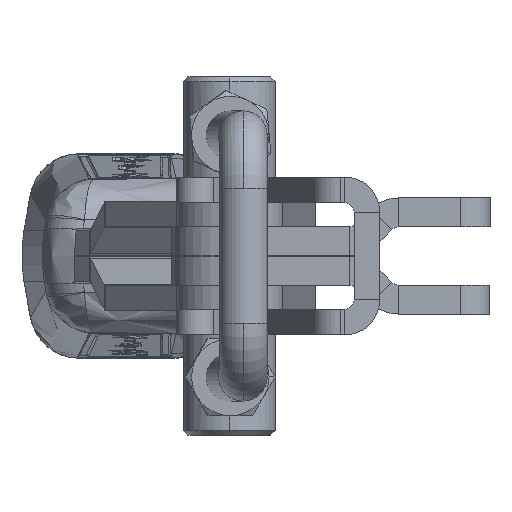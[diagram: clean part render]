
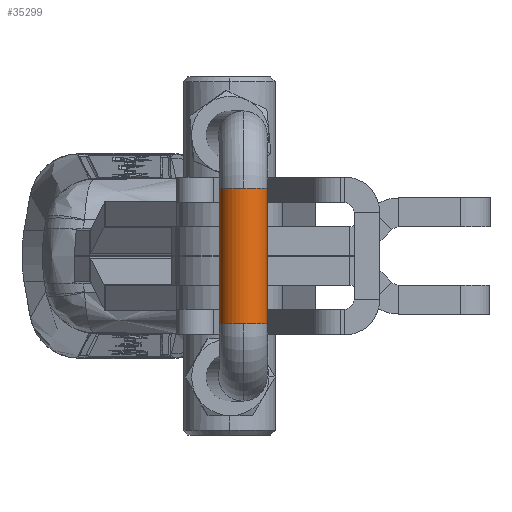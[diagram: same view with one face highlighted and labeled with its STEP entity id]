
A CAD part, left-side view. The second image highlights one B-rep face of the part: STEP entity #35299.
In plain terms, the highlighted cylindrical face has radius 2.5 mm (diameter 5 mm), a partial arc.
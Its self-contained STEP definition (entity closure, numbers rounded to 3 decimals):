
#219 = CIRCLE ( 'NONE', #461, 2.5 ) ;
#461 = AXIS2_PLACEMENT_3D ( 'NONE', #1358, #20433, #4091 ) ;
#890 = CARTESIAN_POINT ( 'NONE',  ( 7., 122.5, 2.5 ) ) ;
#1091 = CARTESIAN_POINT ( 'NONE',  ( -7., 122.5, 2.5 ) ) ;
#1122 = CYLINDRICAL_SURFACE ( 'NONE', #3167, 2.5 ) ;
#1258 = VERTEX_POINT ( 'NONE', #4480 ) ;
#1358 = CARTESIAN_POINT ( 'NONE',  ( -7., 122.5, 0. ) ) ;
#1753 = CARTESIAN_POINT ( 'NONE',  ( -7., 122.5, 2.5 ) ) ;
#1955 = FACE_OUTER_BOUND ( 'NONE', #15838, .T. ) ;
#2258 = ORIENTED_EDGE ( 'NONE', *, *, #17686, .T. ) ;
#3167 = AXIS2_PLACEMENT_3D ( 'NONE', #34981, #15934, #5082 ) ;
#4091 = DIRECTION ( 'NONE',  ( 0., 0., 1. ) ) ;
#4396 = CARTESIAN_POINT ( 'NONE',  ( -7., 122.5, -2.5 ) ) ;
#4480 = CARTESIAN_POINT ( 'NONE',  ( 7., 122.5, -2.5 ) ) ;
#5082 = DIRECTION ( 'NONE',  ( 0., 0., -1. ) ) ;
#5488 = ORIENTED_EDGE ( 'NONE', *, *, #34705, .F. ) ;
#7595 = CIRCLE ( 'NONE', #8898, 2.5 ) ;
#8735 = EDGE_CURVE ( 'NONE', #30465, #1258, #34985, .T. ) ;
#8798 = DIRECTION ( 'NONE',  ( 1., 0., 0. ) ) ;
#8898 = AXIS2_PLACEMENT_3D ( 'NONE', #25140, #8798, #27896 ) ;
#10666 = CARTESIAN_POINT ( 'NONE',  ( -7., 125., 0. ) ) ;
#11937 = VECTOR ( 'NONE', #28376, 1000. ) ;
#12537 = CARTESIAN_POINT ( 'NONE',  ( 7., 122.5, 0. ) ) ;
#14353 = CARTESIAN_POINT ( 'NONE',  ( -7., 122.5, 0. ) ) ;
#15252 = DIRECTION ( 'NONE',  ( 0., 0., 1. ) ) ;
#15809 = CIRCLE ( 'NONE', #30786, 2.5 ) ;
#15838 = EDGE_LOOP ( 'NONE', ( #33130, #2258, #20118, #26023, #5488, #23248 ) ) ;
#15934 = DIRECTION ( 'NONE',  ( 1., 0., 0. ) ) ;
#17073 = DIRECTION ( 'NONE',  ( 0., 0., 1. ) ) ;
#17270 = VERTEX_POINT ( 'NONE', #1753 ) ;
#17686 = EDGE_CURVE ( 'NONE', #21520, #17270, #219, .T. ) ;
#20118 = ORIENTED_EDGE ( 'NONE', *, *, #22753, .T. ) ;
#20433 = DIRECTION ( 'NONE',  ( 1., 0., 0. ) ) ;
#21520 = VERTEX_POINT ( 'NONE', #10666 ) ;
#21778 = CARTESIAN_POINT ( 'NONE',  ( -7., 122.5, -2.5 ) ) ;
#22464 = VERTEX_POINT ( 'NONE', #24347 ) ;
#22753 = EDGE_CURVE ( 'NONE', #17270, #32873, #26468, .T. ) ;
#23248 = ORIENTED_EDGE ( 'NONE', *, *, #8735, .F. ) ;
#23620 = DIRECTION ( 'NONE',  ( 1., 0., 0. ) ) ;
#24347 = CARTESIAN_POINT ( 'NONE',  ( 7., 125., 0. ) ) ;
#25140 = CARTESIAN_POINT ( 'NONE',  ( 7., 122.5, 0. ) ) ;
#26023 = ORIENTED_EDGE ( 'NONE', *, *, #26476, .F. ) ;
#26420 = AXIS2_PLACEMENT_3D ( 'NONE', #14353, #33385, #17073 ) ;
#26468 = LINE ( 'NONE', #1091, #11937 ) ;
#26476 = EDGE_CURVE ( 'NONE', #22464, #32873, #7595, .T. ) ;
#27456 = CIRCLE ( 'NONE', #26420, 2.5 ) ;
#27896 = DIRECTION ( 'NONE',  ( 0., 0., 1. ) ) ;
#28376 = DIRECTION ( 'NONE',  ( 1., 0., 0. ) ) ;
#30465 = VERTEX_POINT ( 'NONE', #21778 ) ;
#30786 = AXIS2_PLACEMENT_3D ( 'NONE', #12537, #31579, #15252 ) ;
#31579 = DIRECTION ( 'NONE',  ( 1., 0., 0. ) ) ;
#32814 = EDGE_CURVE ( 'NONE', #30465, #21520, #27456, .T. ) ;
#32873 = VERTEX_POINT ( 'NONE', #890 ) ;
#33130 = ORIENTED_EDGE ( 'NONE', *, *, #32814, .T. ) ;
#33385 = DIRECTION ( 'NONE',  ( 1., 0., 0. ) ) ;
#34127 = VECTOR ( 'NONE', #23620, 1000. ) ;
#34705 = EDGE_CURVE ( 'NONE', #1258, #22464, #15809, .T. ) ;
#34981 = CARTESIAN_POINT ( 'NONE',  ( -7., 122.5, 0. ) ) ;
#34985 = LINE ( 'NONE', #4396, #34127 ) ;
#35299 = ADVANCED_FACE ( 'NONE', ( #1955 ), #1122, .T. ) ;
